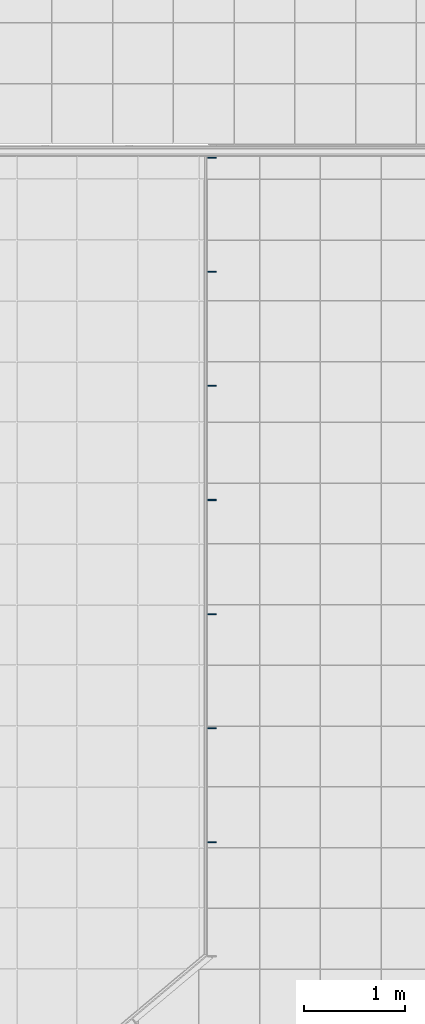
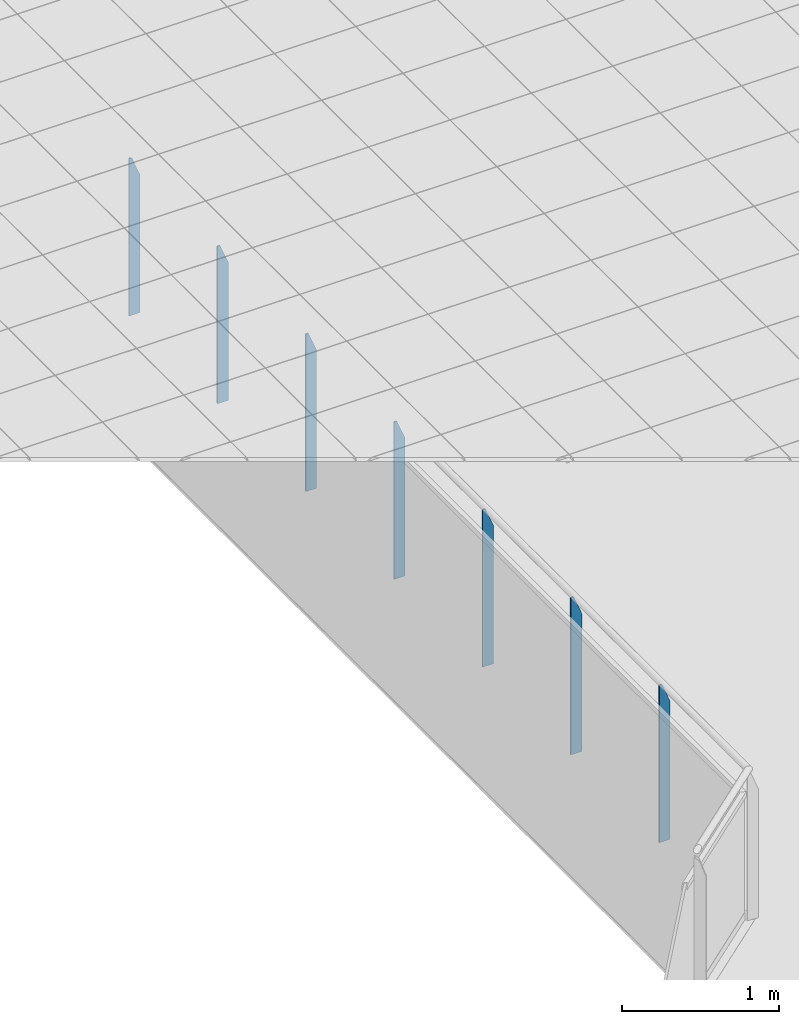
# One storey, part 3 of 321: 7 members, 1 element without a shape of its own.
"""IFC2X3 building model written with IfcOpenShell, lengths in millimetres."""

from ifc_helpers import new_model, entity, si_unit, converted_unit, derived_unit, money_unit, direction, frame, origin_with_axes, place, context, subcontext, project, spatial, faceted_brep, source, transform, mapped, material, type_object, type_shapes, element, aggregate, save


model = new_model("IFC2X3")

# Units and contexts
model_context = context("Model", 3, precision=0.01, world=origin_with_axes(), true_north=direction((0.0, 1.0)))
plan_context = context("Plan", 3, precision=0.01, world=origin_with_axes(), true_north=direction((0.0, 1.0)))
body_context = subcontext(model_context, "Body", "Model", "MODEL_VIEW")
ifc_project = project(units=[si_unit("LENGTHUNIT", "METRE", prefix="MILLI"), si_unit("AREAUNIT", "SQUARE_METRE"), si_unit("VOLUMEUNIT", "CUBIC_METRE"), converted_unit("PLANEANGLEUNIT", "DEGREE", entity("IfcPlaneAngleMeasure", 0.0174532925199), si_unit("PLANEANGLEUNIT", "RADIAN"), dimensions=[0, 0, 0, 0, 0, 0, 0]), money_unit("EUR"), converted_unit("TIMEUNIT", "Year", entity("IfcTimeMeasure", 31556926.0), si_unit("TIMEUNIT", "SECOND"), dimensions=[0, 0, 1, 0, 0, 0, 0]), si_unit("MASSUNIT", "GRAM", prefix="KILO"), si_unit("THERMODYNAMICTEMPERATUREUNIT", "DEGREE_CELSIUS"), si_unit("LUMINOUSINTENSITYUNIT", "LUMEN"), si_unit("ENERGYUNIT", "JOULE", prefix="MEGA"), derived_unit("THERMALCONDUCTANCEUNIT", [(si_unit("POWERUNIT", "WATT"), 1), (si_unit("LENGTHUNIT", "METRE"), -1), (si_unit("THERMODYNAMICTEMPERATUREUNIT", "KELVIN"), -1)]), derived_unit("SPECIFICHEATCAPACITYUNIT", [(si_unit("ENERGYUNIT", "JOULE"), 1), (si_unit("MASSUNIT", "GRAM", prefix="KILO"), -1), (si_unit("THERMODYNAMICTEMPERATUREUNIT", "KELVIN"), -1)]), derived_unit("MASSDENSITYUNIT", [(si_unit("MASSUNIT", "GRAM", prefix="KILO"), 1), (si_unit("VOLUMEUNIT", "CUBIC_METRE"), -1)])], contexts=[model_context, plan_context])

# Site, building, storey
site_placement = place(None, origin_with_axes())
site = spatial("IfcSite", under=ifc_project, at=site_placement, Name="Fortuinstraat Woensdrecht", CompositionType="ELEMENT")
building_placement = place(site_placement, origin_with_axes())
building = spatial("IfcBuilding", under=site, at=building_placement, Name="IKC Fortuna", CompositionType="ELEMENT")
storey_placement = place(building_placement, frame((0.0, 0.0, 4000.0), z_axis=(0.0, 0.0, 1.0), x_axis=(1.0, 0.0, 0.0)))
storey = spatial("IfcBuildingStorey", under=building, at=storey_placement, Name="01 eerste verdieping", CompositionType="ELEMENT", Elevation=4000.0)

# Railing, members
railing_type = type_object("IfcRailingType", Name="Railing Type", PredefinedType="NOTDEFINED")
railing_placement = place(storey_placement, frame((23270.4349765, 16097.2790326, 0.0), z_axis=(0.0, 0.0, 1.0), x_axis=(-1.0, 0.0, 0.0)))
railing = element("IfcRailing", 1, at=railing_placement, inside=storey, type_object=railing_type, Name="34_Reling_Reling vide", PredefinedType="NOTDEFINED")
ifc_material = material(Name="Metaal - RVS")
member_type_1 = type_object("IfcMemberType", Name="IfcMember", PredefinedType="POST")
shared_shape = source(origin_with_axes(), body_context, "Body", "Brep", [
    faceted_brep([(-75.0, 0.0, 0.0), (-75.0, 10.0, 0.0), (5.0, 10.0, 0.0), (5.0, 0.0, 0.0), (-75.0, 0.0, 1075.0), (-75.0, 10.0, 1075.0), (-15.0, 10.0, 1225.0), (5.0, 10.0, 1225.0), (5.0, 0.0, 1225.0), (-15.0, 0.0, 1225.0)], [[[0, 1, 2, 3]], [[4, 5, 1, 0]], [[1, 5, 6, 7, 2]], [[3, 2, 7, 8]], [[0, 3, 8, 9, 4]], [[9, 6, 5, 4]], [[8, 7, 6, 9]]]),
])
type_shapes(member_type_1, [shared_shape])
member_1_placement = place(railing_placement, frame((105.0, 37.482404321, -75.0), z_axis=(0.0, 0.0, 1.0), x_axis=(-1.0, 0.0, 0.0)))
member_1 = element("IfcMember", 2, at=member_1_placement, type_object=member_type_1, material=ifc_material, Name="_Reling - baluster_", ObjectType="POST", context=body_context, shape_type="MappedRepresentation", body=[
    mapped(shared_shape, transform((0.0, 0.0, 0.0), x_axis=(-1.0, 0.0, 0.0), y_axis=(0.0, -1.0, 0.0), z_axis=(0.0, 0.0, 1.0))),
])
member_type_2 = type_object("IfcMemberType", Name="IfcMember", PredefinedType="MEMBER")
type_shapes(member_type_2, [shared_shape])
member_2_placement = place(railing_placement, frame((105.0, 1164.54989115, -75.0), z_axis=(0.0, 0.0, 1.0), x_axis=(-1.0, 0.0, 0.0)))
member_2 = element("IfcMember", 3, at=member_2_placement, type_object=member_type_2, material=ifc_material, Name="_Onderdeel_Spijlen-x", ObjectType="MEMBER", context=body_context, shape_type="MappedRepresentation", body=[
    mapped(shared_shape, transform((0.0, 0.0, 0.0), x_axis=(-1.0, 0.0, 0.0), y_axis=(0.0, -1.0, 0.0), z_axis=(0.0, 0.0, 1.0))),
])
member_3_placement = place(railing_placement, frame((105.0, 2291.61737798, -75.0), z_axis=(0.0, 0.0, 1.0), x_axis=(-1.0, 0.0, 0.0)))
member_3 = element("IfcMember", 4, at=member_3_placement, type_object=member_type_2, material=ifc_material, Name="_Onderdeel_Spijlen-x", ObjectType="MEMBER", context=body_context, shape_type="MappedRepresentation", body=[
    mapped(shared_shape, transform((0.0, 0.0, 0.0), x_axis=(-1.0, 0.0, 0.0), y_axis=(0.0, -1.0, 0.0), z_axis=(0.0, 0.0, 1.0))),
])
member_4_placement = place(railing_placement, frame((105.0, 3418.68486482, -75.0), z_axis=(0.0, 0.0, 1.0), x_axis=(-1.0, 0.0, 0.0)))
member_4 = element("IfcMember", 5, at=member_4_placement, type_object=member_type_2, material=ifc_material, Name="_Onderdeel_Spijlen-x", ObjectType="MEMBER", context=body_context, shape_type="MappedRepresentation", body=[
    mapped(shared_shape, transform((0.0, 0.0, 0.0), x_axis=(-1.0, 0.0, 0.0), y_axis=(0.0, -1.0, 0.0), z_axis=(0.0, 0.0, 1.0))),
])
member_5_placement = place(railing_placement, frame((105.0, 4545.75235165, -75.0), z_axis=(0.0, 0.0, 1.0), x_axis=(-1.0, 0.0, 0.0)))
member_5 = element("IfcMember", 6, at=member_5_placement, type_object=member_type_2, material=ifc_material, Name="_Onderdeel_Spijlen-x", ObjectType="MEMBER", context=body_context, shape_type="MappedRepresentation", body=[
    mapped(shared_shape, transform((0.0, 0.0, 0.0), x_axis=(-1.0, 0.0, 0.0), y_axis=(0.0, -1.0, 0.0), z_axis=(0.0, 0.0, 1.0))),
])
member_6_placement = place(railing_placement, frame((105.0, 5672.81983848, -75.0), z_axis=(0.0, 0.0, 1.0), x_axis=(-1.0, 0.0, 0.0)))
member_6 = element("IfcMember", 7, at=member_6_placement, type_object=member_type_2, material=ifc_material, Name="_Onderdeel_Spijlen-x", ObjectType="MEMBER", context=body_context, shape_type="MappedRepresentation", body=[
    mapped(shared_shape, transform((0.0, 0.0, 0.0), x_axis=(-1.0, 0.0, 0.0), y_axis=(0.0, -1.0, 0.0), z_axis=(0.0, 0.0, 1.0))),
])
member_7_placement = place(railing_placement, frame((105.0, 6799.88732531, -75.0), z_axis=(0.0, 0.0, 1.0), x_axis=(-1.0, 0.0, 0.0)))
member_7 = element("IfcMember", 8, at=member_7_placement, type_object=member_type_2, material=ifc_material, Name="_Onderdeel_Spijlen-x", ObjectType="MEMBER", context=body_context, shape_type="MappedRepresentation", body=[
    mapped(shared_shape, transform((0.0, 0.0, 0.0), x_axis=(-1.0, 0.0, 0.0), y_axis=(0.0, -1.0, 0.0), z_axis=(0.0, 0.0, 1.0))),
])
aggregate(railing, [member_1, member_2, member_3, member_4, member_5, member_6, member_7])

save(model, "model.ifc")
